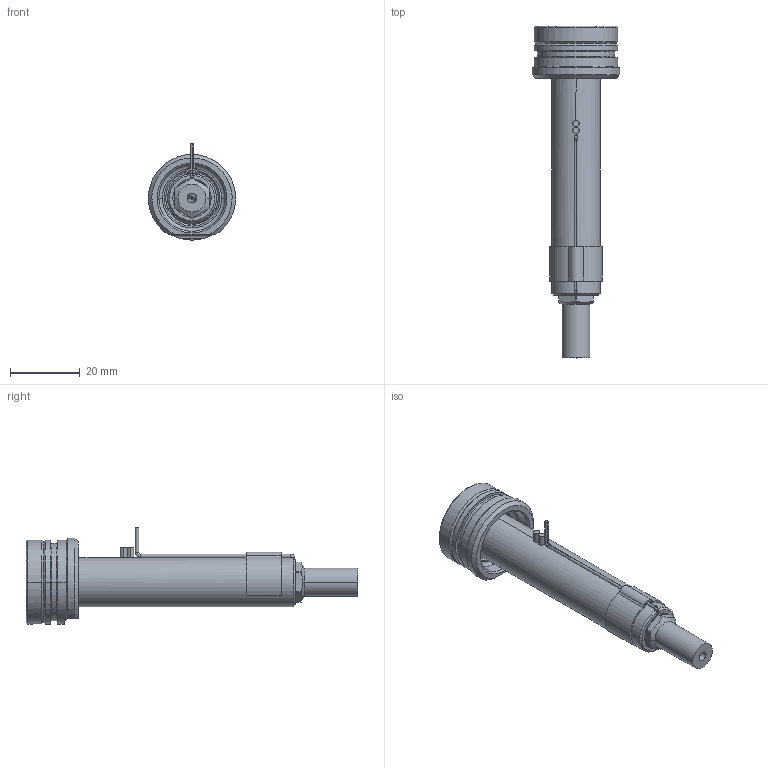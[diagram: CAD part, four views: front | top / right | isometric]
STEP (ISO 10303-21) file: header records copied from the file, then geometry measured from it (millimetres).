
FILE_DESCRIPTION((''),'2;1');
FILE_NAME('EO04_PG-FBE_WR_070_SW','2024-02-19T11:47:27',('sundharh'),(''),'CREO PARAMETRIC BY PTC INC, 2023154','CREO PARAMETRIC BY PTC INC, 2023154','');
FILE_SCHEMA(('CONFIG_CONTROL_DESIGN'));
Length unit declared in the file: millimetre
Products named in the file (1): EO04_PG-FBE_WR_070_SW
Bounding box: 24.99 x 95 x 27.5 mm (x, y, z)
Volume: 15664.3 mm3; surface area: 8405.1 mm2
Topology: 2 solids, 2 shells, 225 faces, 603 edges, 368 vertices
Faces by surface type: cylinder 84, plane 59, cone 46, torus 22, bspline 11, sphere 3
Entity records: 8220 total; most frequent: CARTESIAN_POINT 2546, DIRECTION 1235, ORIENTED_EDGE 1190, EDGE_CURVE 595, AXIS2_PLACEMENT_3D 518, VERTEX_POINT 368, CIRCLE 304, EDGE_LOOP 241
